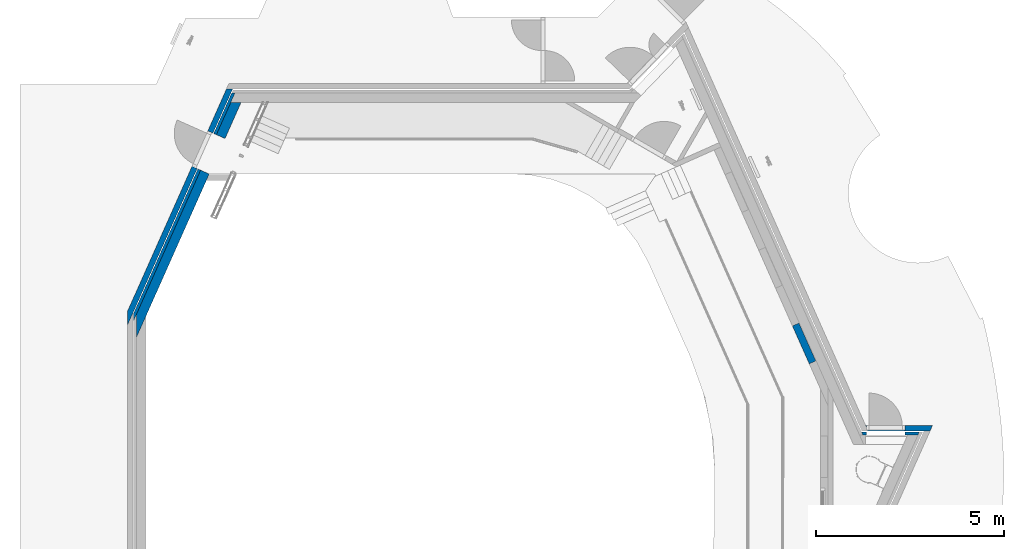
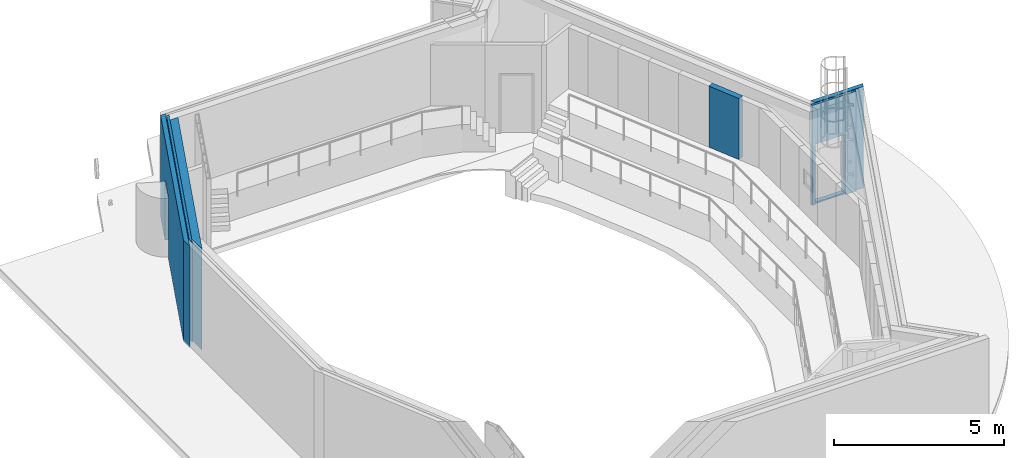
# One storey, part 8 of 16: 6 walls, 5 openings.
"""IFC2X3 building model written with IfcOpenShell, lengths in millimetres."""

import ifcopenshell
import ifcopenshell.guid

model = None  # the IFC model being written
_history = None  # IfcOwnerHistory: only IFC2X3 demands one
_inside = {}  # id of a spatial element -> (the spatial element, [elements in it])
_under = {}  # id of a project, library or spatial element -> (it, [spatial elements below it])
_declared = {}  # id of a project -> (the project, [libraries it declares])
_typed = {}  # id of a type object -> (the type object, [elements of that type])
_made_of = {}  # id of a material, layer set ... -> (it, [elements and type objects made of it])


def new_model(schema):
    """Start an empty IFC model of exactly this schema.

    Asked for "IFC4X3", IfcOpenShell would pick the latest addendum, in which some entities
    have other attributes; the version numbers below select the first issue.
    IFC2X3 requires an IfcOwnerHistory on every rooted entity: one is made here for all.
    """
    global model, _history
    if schema == "IFC4X3":
        model = ifcopenshell.file(schema_version=(4, 3, 0, 0))
    else:
        model = ifcopenshell.file(schema=schema)
    _inside.clear()
    _under.clear()
    _declared.clear()
    _typed.clear()
    _made_of.clear()
    _history = None
    if model.schema == "IFC2X3":
        org = make("IfcOrganization", Name="unknown")
        user = make(
            "IfcPersonAndOrganization",
            ThePerson=make("IfcPerson", FamilyName="unknown"),
            TheOrganization=org,
        )
        app = make(
            "IfcApplication",
            ApplicationDeveloper=org,
            Version="unknown",
            ApplicationFullName="unknown",
            ApplicationIdentifier="unknown",
        )
        _history = make(
            "IfcOwnerHistory",
            OwningUser=user,
            OwningApplication=app,
            ChangeAction="ADDED",
            CreationDate=0,
        )
    return model


def make(cls, **values):
    """One entity of the class cls with the attributes given. An attribute that is None is left unset."""
    return model.create_entity(
        cls, **{name: value for name, value in values.items() if value is not None}
    )


def entity(cls, *values):
    """Any entity or typed value of the class cls, its attributes in the order of the schema. None: left unset."""
    e = model.create_entity(cls)
    for i, value in enumerate(values):
        if value is not None:
            e[i] = value
    return e


def rooted(cls, **values):
    """An entity with a GlobalId (a new one), such as an element, a storey or a relation."""
    return make(cls, GlobalId=ifcopenshell.guid.new(), OwnerHistory=_history, **values)


def si_unit(unit_type, name, prefix=None):
    """IfcSIUnit, for example si_unit("LENGTHUNIT", "METRE", prefix="MILLI")."""
    return make("IfcSIUnit", UnitType=unit_type, Prefix=prefix, Name=name)


def converted_unit(unit_type, name, factor, base, dimensions=None, offset=None):
    """IfcConversionBasedUnit, such as the inch: factor (a typed value) times the base unit."""
    return make(
        "IfcConversionBasedUnit"
        if offset is None
        else "IfcConversionBasedUnitWithOffset",
        ConversionOffset=offset,
        Dimensions=None
        if dimensions is None
        else entity("IfcDimensionalExponents", *dimensions),
        UnitType=unit_type,
        Name=name,
        ConversionFactor=make(
            "IfcMeasureWithUnit", ValueComponent=factor, UnitComponent=base
        ),
    )


def derived_unit(unit_type, elements):
    """IfcDerivedUnit: a product of units, each with its exponent."""
    return make(
        "IfcDerivedUnit",
        Elements=[
            make("IfcDerivedUnitElement", Unit=unit, Exponent=power)
            for unit, power in elements
        ],
        UnitType=unit_type,
    )


def assignment(units):
    """IfcUnitAssignment: the units of a project."""
    return None if units is None else make("IfcUnitAssignment", Units=units)


def point(xyz):
    """IfcCartesianPoint."""
    return None if xyz is None else make("IfcCartesianPoint", Coordinates=xyz)


def direction(xyz):
    """IfcDirection."""
    return None if xyz is None else make("IfcDirection", DirectionRatios=xyz)


def frame(location, z_axis=None, x_axis=None):
    """IfcAxis2Placement3D, a coordinate frame: its origin and axes. An axis left out is left unset."""
    return make(
        "IfcAxis2Placement3D",
        Location=point(location),
        Axis=direction(z_axis),
        RefDirection=direction(x_axis),
    )


def frame_2d(location, x_axis=None):
    """IfcAxis2Placement2D, a coordinate frame in the plane: its origin and x axis."""
    return make(
        "IfcAxis2Placement2D", Location=point(location), RefDirection=direction(x_axis)
    )


def origin():
    """The frame at (0, 0, 0) with its axes left unset."""
    return frame((0.0, 0.0, 0.0))


def origin_2d_with_axis():
    """The frame at (0, 0) in the plane with the x axis (1, 0) written out."""
    return frame_2d((0.0, 0.0), x_axis=(1.0, 0.0))


def place(relative_to, where):
    """IfcLocalPlacement: puts the frame where relative to a parent placement (None: the world)."""
    return make(
        "IfcLocalPlacement", PlacementRelTo=relative_to, RelativePlacement=where
    )


def context(
    kind, dimensions, precision=None, world=None, true_north=None, identifier=None
):
    """IfcGeometricRepresentationContext, for example the 3D "Model" context."""
    return make(
        "IfcGeometricRepresentationContext",
        ContextIdentifier=identifier,
        ContextType=kind,
        CoordinateSpaceDimension=dimensions,
        Precision=precision,
        WorldCoordinateSystem=world,
        TrueNorth=true_north,
    )


def subcontext(parent, identifier, kind, view, scale=None):
    """IfcGeometricRepresentationSubContext, for example "Body" below "Model"."""
    return make(
        "IfcGeometricRepresentationSubContext",
        ContextIdentifier=identifier,
        ContextType=kind,
        ParentContext=parent,
        TargetScale=scale,
        TargetView=view,
    )


def project(units=None, contexts=None):
    """IfcProject with its units and contexts."""
    return rooted(
        "IfcProject",
        Name="project",
        RepresentationContexts=contexts,
        UnitsInContext=assignment(units),
    )


def spatial(cls, under=None, at=None, **own):
    """A site, building, storey or space (cls), placed at a placement, below another one or the project."""
    s = rooted(cls, ObjectPlacement=at, **own)
    if under is not None:
        _under.setdefault(under.id(), (under, []))[1].append(s)
    return s


def polyline(points):
    """IfcPolyline through the points."""
    return make("IfcPolyline", Points=[point(p) for p in points])


def profile(cls, at=None, kind="AREA", **sizes):
    """A parametric profile (cls). Its sizes go by their IFC names, for example OverallWidth=200.0."""
    return make(cls, ProfileType=kind, Position=at, **sizes)


def rectangle(**sizes):
    """IfcRectangleProfileDef."""
    return profile("IfcRectangleProfileDef", **sizes)


def outline(outer, holes=None, kind="AREA"):
    """IfcArbitraryClosedProfileDef: a profile drawn as a closed curve; with holes, ...WithVoids."""
    if holes is None:
        return make("IfcArbitraryClosedProfileDef", ProfileType=kind, OuterCurve=outer)
    return make(
        "IfcArbitraryProfileDefWithVoids",
        ProfileType=kind,
        OuterCurve=outer,
        InnerCurves=holes,
    )


def extrude(swept, where, along, depth):
    """IfcExtrudedAreaSolid: the profile swept, set in the frame where, extruded along a direction by depth."""
    return make(
        "IfcExtrudedAreaSolid",
        SweptArea=swept,
        Position=where,
        ExtrudedDirection=direction(along),
        Depth=depth,
    )


def clip(a, b, op="DIFFERENCE"):
    """IfcBooleanClippingResult: the solid a cut by the half space b."""
    return make(
        "IfcBooleanClippingResult", Operator=op, FirstOperand=a, SecondOperand=b
    )


def halfspace(plane, agree):
    """IfcHalfSpaceSolid: all space on one side of the plane z = 0 of the frame plane."""
    return make(
        "IfcHalfSpaceSolid",
        BaseSurface=make("IfcPlane", Position=plane),
        AgreementFlag=agree,
    )


def shape(context_of_items, identifier, shape_type, items):
    """IfcShapeRepresentation: the items that make up one representation, for example the "Body"."""
    return make(
        "IfcShapeRepresentation",
        ContextOfItems=context_of_items,
        RepresentationIdentifier=identifier,
        RepresentationType=shape_type,
        Items=items,
    )


def material(Name=None, Category=None):
    """IfcMaterial."""
    return make("IfcMaterial", Name=Name, Category=Category)


def layer(
    of_material, thickness, ventilated=None, Name=None, Category=None, Priority=None
):
    """IfcMaterialLayer: one layer of a wall or slab, of a material (None: an air gap)."""
    return make(
        "IfcMaterialLayer",
        Material=of_material,
        LayerThickness=thickness,
        IsVentilated=ventilated,
        Name=Name,
        Category=Category,
        Priority=Priority,
    )


def layer_set(layers, Name=None):
    """IfcMaterialLayerSet."""
    return make("IfcMaterialLayerSet", MaterialLayers=layers, LayerSetName=Name)


def layer_usage(for_layer_set, set_direction, sense, offset, extent=None):
    """IfcMaterialLayerSetUsage: how a layer set lies in its element."""
    return make(
        "IfcMaterialLayerSetUsage",
        ForLayerSet=for_layer_set,
        LayerSetDirection=set_direction,
        DirectionSense=sense,
        OffsetFromReferenceLine=offset,
        ReferenceExtent=extent,
    )


def made_of(thing, what):
    """Note that an element or type object is made of a material, layer set ...; save() writes the relation."""
    if what is not None:
        _made_of.setdefault(what.id(), (what, []))[1].append(thing)
    return thing


def type_object(cls, material=None, **own):
    """A type object (cls), such as IfcWallType, which elements share."""
    return made_of(rooted(cls, **own), material)


def element(
    cls,
    number,
    at=None,
    inside=None,
    cuts=None,
    type_object=None,
    material=None,
    context=None,
    identifier="Body",
    shape_type=None,
    held_by="IfcProductDefinitionShape",
    body=None,
    shapes=None,
    **own,
):
    """One element of the class cls, such as IfcWall. Its Tag is "e" and its number.

    at: its placement. inside: the storey or other place that contains it. cuts: it is an
    opening in that element (IfcRelVoidsElement). A single representation is given by context,
    identifier, shape_type and body (its items); several are given by shapes. held_by: the class
    of the entity that holds the representations. save() writes the other relations.
    """
    e = rooted(cls, Tag="e%d" % number, ObjectPlacement=at, **own)
    if body is not None:
        shapes = [shape(context, identifier, shape_type, body)]
    if shapes is not None:
        e.Representation = make(held_by, Representations=shapes)
    if inside is not None:
        _inside.setdefault(inside.id(), (inside, []))[1].append(e)
    if cuts is not None:
        rooted(
            "IfcRelVoidsElement", RelatingBuildingElement=cuts, RelatedOpeningElement=e
        )
    if type_object is not None:
        _typed.setdefault(type_object.id(), (type_object, []))[1].append(e)
    return made_of(e, material)


def aggregate(whole, parts):
    """IfcRelAggregates: a whole, such as a stair, and the parts it consists of."""
    return rooted("IfcRelAggregates", RelatingObject=whole, RelatedObjects=parts)


def save(model, path):
    """Write the relations noted so far, then the file.

    IfcRelAggregates (storeys below a building ...), IfcRelContainedInSpatialStructure (elements
    in a storey), IfcRelDefinesByType, IfcRelAssociatesMaterial and IfcRelDeclares: one each for
    every whole, place, type object, material and project.
    """
    for whole, parts in _under.values():
        aggregate(whole, parts)
    for where, things in _inside.values():
        rooted(
            "IfcRelContainedInSpatialStructure",
            RelatedElements=things,
            RelatingStructure=where,
        )
    for kind, things in _typed.values():
        rooted("IfcRelDefinesByType", RelatedObjects=things, RelatingType=kind)
    for what, things in _made_of.values():
        rooted("IfcRelAssociatesMaterial", RelatedObjects=things, RelatingMaterial=what)
    for by, libraries in _declared.values():
        rooted("IfcRelDeclares", RelatingContext=by, RelatedDefinitions=libraries)
    model.write(path)


model = new_model("IFC2X3")

# Units and contexts
model_context = context("Model", 3, precision=0.01, world=origin(), true_north=direction((6.123031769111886e-17, 1.0)))
body_context = subcontext(model_context, "Body", "Model", "MODEL_VIEW")
ifc_project = project(units=[si_unit("LENGTHUNIT", "METRE", prefix="MILLI"), si_unit("AREAUNIT", "SQUARE_METRE"), si_unit("VOLUMEUNIT", "CUBIC_METRE"), converted_unit("PLANEANGLEUNIT", "DEGREE", entity("IfcRatioMeasure", 0.017453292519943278), si_unit("PLANEANGLEUNIT", "RADIAN"), dimensions=[0, 0, 0, 0, 0, 0, 0]), si_unit("MASSUNIT", "GRAM", prefix="KILO"), derived_unit("MASSDENSITYUNIT", [(si_unit("MASSUNIT", "GRAM", prefix="KILO"), 1), (si_unit("LENGTHUNIT", "METRE"), -3)]), derived_unit("MOMENTOFINERTIAUNIT", [(si_unit("LENGTHUNIT", "METRE"), 4)]), si_unit("TIMEUNIT", "SECOND"), si_unit("FREQUENCYUNIT", "HERTZ"), si_unit("THERMODYNAMICTEMPERATUREUNIT", "DEGREE_CELSIUS"), derived_unit("THERMALTRANSMITTANCEUNIT", [(si_unit("MASSUNIT", "GRAM", prefix="KILO"), 1), (si_unit("THERMODYNAMICTEMPERATUREUNIT", "KELVIN"), -1), (si_unit("TIMEUNIT", "SECOND"), -3)]), derived_unit("VOLUMETRICFLOWRATEUNIT", [(si_unit("LENGTHUNIT", "METRE"), 3), (si_unit("TIMEUNIT", "SECOND"), -1)]), derived_unit("MASSFLOWRATEUNIT", [(si_unit("MASSUNIT", "GRAM", prefix="KILO"), 1), (si_unit("TIMEUNIT", "SECOND"), -1)]), derived_unit("ROTATIONALFREQUENCYUNIT", [(si_unit("TIMEUNIT", "SECOND"), -1)]), si_unit("ELECTRICCURRENTUNIT", "AMPERE"), si_unit("ELECTRICVOLTAGEUNIT", "VOLT"), si_unit("POWERUNIT", "WATT"), si_unit("FORCEUNIT", "NEWTON", prefix="KILO"), si_unit("ILLUMINANCEUNIT", "LUX"), si_unit("LUMINOUSFLUXUNIT", "LUMEN"), si_unit("LUMINOUSINTENSITYUNIT", "CANDELA"), derived_unit("USERDEFINED", [(si_unit("MASSUNIT", "GRAM", prefix="KILO"), -1), (si_unit("LENGTHUNIT", "METRE"), -2), (si_unit("TIMEUNIT", "SECOND"), 3), (si_unit("LUMINOUSFLUXUNIT", "LUMEN"), 1)]), derived_unit("SOUNDPOWERUNIT", [(si_unit("MASSUNIT", "GRAM", prefix="KILO"), 1), (si_unit("LENGTHUNIT", "METRE"), 2), (si_unit("TIMEUNIT", "SECOND"), -3)]), derived_unit("SOUNDPRESSUREUNIT", [(si_unit("MASSUNIT", "GRAM", prefix="KILO"), 1), (si_unit("LENGTHUNIT", "METRE"), -1), (si_unit("TIMEUNIT", "SECOND"), -2)]), derived_unit("LINEARVELOCITYUNIT", [(si_unit("LENGTHUNIT", "METRE"), 1), (si_unit("TIMEUNIT", "SECOND"), -1)]), si_unit("PRESSUREUNIT", "PASCAL"), derived_unit("USERDEFINED", [(si_unit("LENGTHUNIT", "METRE"), -2), (si_unit("MASSUNIT", "GRAM", prefix="KILO"), 1), (si_unit("TIMEUNIT", "SECOND"), -2)]), derived_unit("LINEARFORCEUNIT", [(si_unit("MASSUNIT", "GRAM", prefix="KILO"), 1), (si_unit("LENGTHUNIT", "METRE"), 1), (si_unit("TIMEUNIT", "SECOND"), -2), (si_unit("LENGTHUNIT", "METRE"), -1)]), derived_unit("PLANARFORCEUNIT", [(si_unit("MASSUNIT", "GRAM", prefix="KILO"), 1), (si_unit("LENGTHUNIT", "METRE"), 1), (si_unit("TIMEUNIT", "SECOND"), -2), (si_unit("LENGTHUNIT", "METRE"), -2)])], contexts=[model_context])

# Site, building, storey
site_placement = place(None, frame((-10000.0, -10000.0, 0.0)))
site = spatial("IfcSite", under=ifc_project, at=site_placement, Name="Default", CompositionType="ELEMENT")
building_placement = place(site_placement, origin())
building = spatial("IfcBuilding", under=site, at=building_placement, CompositionType="ELEMENT")
storey_placement = place(building_placement, frame((0.0, 0.0, 9000.0)))
storey = spatial("IfcBuildingStorey", under=building, at=storey_placement, Name="02 2e verdieping", CompositionType="ELEMENT", Elevation=9000.0)

# Wall, opening
ifc_material_1 = material(Name="NLRS_beton ihwg")
ifc_layer_1 = layer(ifc_material_1, 250.00000000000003)
ifc_layer_set_1 = layer_set([ifc_layer_1], Name="Basic Wall:NLRS_21_WA_beton 250mm_ags")
ifc_layer_usage_1 = layer_usage(ifc_layer_set_1, "AXIS2", "NEGATIVE", 125.00000000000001)
wall_type_1 = type_object("IfcWallType", Name="Basic Wall:NLRS_21_WA_beton 250mm_ags", PredefinedType="STANDARD", material=ifc_layer_set_1)
wall_1_placement = place(storey_placement, frame((28183.279332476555, 49202.842080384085, -50.0), z_axis=(0.0, 0.0, 1.0), x_axis=(-0.4067366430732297, -0.9135454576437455, 0.0)))
wall_1 = element("IfcWallStandardCase", 1, at=wall_1_placement, inside=storey, type_object=wall_type_1, material=ifc_layer_usage_1, Name="Basic Wall:NLRS_21_WA_beton 250mm_ags", ObjectType="Basic Wall:NLRS_21_WA_beton 250mm_ags", context=body_context, shape_type="Clipping", body=[
    clip(extrude(outline(polyline([(111.30717132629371, -125.0), (6254.8732549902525, -125.0), (6816.382448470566, 125.0), (6201.734114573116, 125.0), (0.0, 125.0), (111.30717132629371, -125.0)])), origin(), (0.0, 0.0, 1.0), 3649.9999999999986), halfspace(frame((0.0, 0.0, -50.0)), True)),
])
opening_1_placement = place(wall_1_placement, origin())
element("IfcOpeningElement", 2, at=opening_1_placement, cuts=wall_1, Name="Basic Wall:NLRS_21_WA_beton 250mm_ags", ObjectType="Opening", context=body_context, shape_type="SweptSolid", body=[
    extrude(rectangle(XDim=2220.0, YDim=1030.0000000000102, at=frame_2d((-1.1368683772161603e-12, 4.888534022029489e-12), x_axis=(1.0, 0.0))), frame((1568.0, -125.0, 1110.0), z_axis=(0.0, 1.0, 0.0), x_axis=(0.0, 0.0, -1.0)), (0.0, 0.0, 1.0), 249.99999999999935),
])

ifc_material_2 = material(Name="NLRS_kalkzandsteen")
ifc_layer_2 = layer(ifc_material_2, 150.0)
ifc_layer_set_2 = layer_set([ifc_layer_2], Name="Basic Wall:NLRS_22_WA_kalkzandsteen 150mm_ags")
ifc_layer_usage_2 = layer_usage(ifc_layer_set_2, "AXIS2", "NEGATIVE", 75.0)
wall_type_2 = type_object("IfcWallType", Name="Basic Wall:NLRS_22_WA_kalkzandsteen 150mm_ags", PredefinedType="STANDARD", material=ifc_layer_set_2)
wall_2_placement = place(storey_placement, frame((28001.66394773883, 49532.50524823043, -50.0), z_axis=(0.0, 0.0, 1.0), x_axis=(-0.40673664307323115, -0.9135454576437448, 0.0)))
wall_2 = element("IfcWallStandardCase", 3, at=wall_2_placement, inside=storey, type_object=wall_type_2, material=ifc_layer_usage_2, Name="Basic Wall:NLRS_22_WA_kalkzandsteen 150mm_ags", ObjectType="Basic Wall:NLRS_22_WA_kalkzandsteen 150mm_ags", context=body_context, shape_type="Clipping", body=[
    clip(extrude(outline(polyline([(66.78430279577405, -75.0), (6535.3050530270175, -75.0), (6872.210569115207, 75.0), (6503.421568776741, 75.0), (0.0, 75.0), (66.78430279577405, -75.0)])), origin(), (0.0, 0.0, 1.0), 3649.9999999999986), halfspace(frame((0.0, 0.0, -50.0)), True)),
])
opening_2_placement = place(wall_2_placement, origin())
element("IfcOpeningElement", 4, at=opening_2_placement, cuts=wall_2, Name="Basic Wall:NLRS_22_WA_kalkzandsteen 150mm_ags", ObjectType="Opening", context=body_context, shape_type="SweptSolid", body=[
    extrude(rectangle(XDim=2220.0, YDim=1030.0000000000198, at=frame_2d((-1.1368683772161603e-12, 0.0), x_axis=(1.0, 0.0))), frame((1795.292657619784, -75.0, 1110.0), z_axis=(0.0, 1.0, 0.0), x_axis=(0.0, 0.0, -1.0)), (0.0, 0.0, 1.0), 150.00000000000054),
])

ifc_layer_usage_3 = layer_usage(ifc_layer_set_2, "AXIS2", "NEGATIVE", 75.0)
wall_3_placement = place(storey_placement, frame((44882.691134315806, 40492.97902798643, -50.0)))
wall_3 = element("IfcWallStandardCase", 5, at=wall_3_placement, inside=storey, type_object=wall_type_2, material=ifc_layer_usage_3, Name="Basic Wall:NLRS_22_WA_kalkzandsteen 150mm_ags", ObjectType="Basic Wall:NLRS_22_WA_kalkzandsteen 150mm_ags", context=body_context, shape_type="Clipping", body=[
    clip(extrude(outline(polyline([(1709.0306594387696, -75.0), (1775.8149622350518, 75.0), (0.0, 75.0), (66.78430279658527, -75.0), (1544.835217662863, -75.0), (1709.0306594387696, -75.0)])), origin(), (0.0, 0.0, 1.0), 3649.9999999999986), halfspace(frame((0.0, 0.0, -50.0)), True)),
])
opening_3_placement = place(wall_3_placement, origin())
element("IfcOpeningElement", 6, at=opening_3_placement, cuts=wall_3, Name="Basic Wall:NLRS_22_WA_kalkzandsteen 150mm_ags", ObjectType="Opening", context=body_context, shape_type="SweptSolid", body=[
    extrude(rectangle(XDim=2170.0000000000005, YDim=1019.9999999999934, at=origin_2d_with_axis()), frame((530.8824803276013, -227.4000000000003, 1135.0), z_axis=(0.0, 1.0, 0.0), x_axis=(0.0, 0.0, 1.0)), (0.0, 0.0, 1.0), 454.8000000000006),
])

ifc_material_3 = material(Name="NLRS_isolatie")
ifc_layer_3 = layer(ifc_material_3, 80.0)
ifc_layer_set_3 = layer_set([ifc_layer_3], Name="Basic Wall:NLRS_21_WA_isolatie 80mm_ags")
ifc_layer_usage_4 = layer_usage(ifc_layer_set_3, "AXIS2", "NEGATIVE", 40.0)
wall_type_3 = type_object("IfcWallType", Name="Basic Wall:NLRS_21_WA_isolatie 80mm_ags", PredefinedType="STANDARD", material=ifc_layer_set_3)
wall_4_placement = place(storey_placement, frame((25408.45818138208, 43376.159634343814, 0.0), z_axis=(0.0, 0.0, 1.0), x_axis=(0.4067366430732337, 0.9135454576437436, 0.0)))
wall_4 = element("IfcWallStandardCase", 7, at=wall_4_placement, inside=storey, type_object=wall_type_3, material=ifc_layer_usage_4, Name="Basic Wall:NLRS_21_WA_isolatie 80mm_ags", ObjectType="Basic Wall:NLRS_21_WA_isolatie 80mm_ags", context=body_context, shape_type="Clipping", body=[
    clip(extrude(outline(polyline([(0.0, -40.0), (196.68746684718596, -40.0), (6613.912620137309, -40.0), (6578.294325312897, 40.0), (179.68294191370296, 40.0), (0.0, -40.0)])), origin(), (0.0, 0.0, 1.0), 3600.0000000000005), halfspace(frame((0.0, 0.0, -4800.0)), True)),
])
opening_4_placement = place(wall_4_placement, origin())
element("IfcOpeningElement", 8, at=opening_4_placement, cuts=wall_4, Name="Basic Wall:NLRS_21_WA_isolatie 80mm_ags", ObjectType="Opening", context=body_context, shape_type="SweptSolid", body=[
    extrude(rectangle(XDim=2220.0, YDim=1030.0000000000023, at=frame_2d((-1.1368683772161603e-12, 9.094947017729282e-13), x_axis=(1.0, 0.0))), frame((4883.560721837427, -40.0, 1060.0), z_axis=(0.0, 1.0, 0.0), x_axis=(0.0, 0.0, -1.0)), (0.0, 0.0, 1.0), 79.99999999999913),
])

ifc_layer_usage_5 = layer_usage(ifc_layer_set_3, "AXIS2", "NEGATIVE", 40.0)
wall_5_placement = place(storey_placement, frame((44772.29184347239, 40357.97902798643, 0.0)))
wall_5 = element("IfcWallStandardCase", 9, at=wall_5_placement, inside=storey, type_object=wall_type_3, material=ifc_layer_usage_5, Name="Basic Wall:NLRS_21_WA_isolatie 80mm_ags", ObjectType="Basic Wall:NLRS_21_WA_isolatie 80mm_ags", context=body_context, shape_type="Clipping", body=[
    clip(extrude(outline(polyline([(35.61829482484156, -40.0), (1501.2480121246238, -40.0), (1536.8663069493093, 40.0), (0.0, 40.0), (35.61829482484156, -40.0)])), origin(), (0.0, 0.0, 1.0), 3600.0000000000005), halfspace(frame((0.0, 0.0, -4800.0)), True)),
])
opening_5_placement = place(wall_5_placement, origin())
element("IfcOpeningElement", 10, at=opening_5_placement, cuts=wall_5, Name="Basic Wall:NLRS_21_WA_isolatie 80mm_ags", ObjectType="Opening", context=body_context, shape_type="SweptSolid", body=[
    extrude(rectangle(XDim=2220.0, YDim=1019.9999999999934, at=frame_2d((-1.1368683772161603e-12, 0.0), x_axis=(1.0, 0.0))), frame((641.2817711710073, -40.0, 1060.0), z_axis=(0.0, 1.0, 0.0), x_axis=(0.0, 0.0, -1.0)), (0.0, 0.0, 1.0), 79.99999999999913),
])

# Wall
ifc_material_4 = material(Name="NLRS_hout")
ifc_layer_4 = layer(ifc_material_4, 39.0)
ifc_material_5 = material(Name="NLRS_vilt")
ifc_layer_5 = layer(ifc_material_5, 1.0)
ifc_material_6 = material(Name="NLRS_aluminium C-profielen met isolatie")
ifc_layer_6 = layer(ifc_material_6, 150.0)
ifc_layer_set_4 = layer_set([ifc_layer_4, ifc_layer_5, ifc_layer_6], Name="Basic Wall:NLRS_22_WA_akoestische voorzetwand 190mm 39-1-150_ags")
ifc_layer_usage_6 = layer_usage(ifc_layer_set_4, "AXIS2", "POSITIVE", -94.99999999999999)
wall_type_4 = type_object("IfcWallType", Name="Basic Wall:NLRS_22_WA_akoestische voorzetwand 190mm 39-1-150_ags", PredefinedType="STANDARD", material=ifc_layer_set_4)
wall_6_placement = place(storey_placement, frame((43026.03998699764, 43250.63681313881, 1000.0), z_axis=(0.0, 0.0, 1.0), x_axis=(0.40673664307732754, -0.913545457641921, 0.0)))
element("IfcWallStandardCase", 11, at=wall_6_placement, inside=storey, type_object=wall_type_4, material=ifc_layer_usage_6, Name="Basic Wall:NLRS_22_WA_akoestische voorzetwand 190mm 39-1-150_ags", ObjectType="Basic Wall:NLRS_22_WA_akoestische voorzetwand 190mm 39-1-150_ags", context=body_context, shape_type="SweptSolid", body=[
    extrude(rectangle(XDim=1099.9999999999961, YDim=189.99999999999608, at=frame_2d((549.9999999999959, 7.87281351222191e-12), x_axis=(-1.0, 0.0))), origin(), (0.0, 0.0, 1.0), 2200.0000000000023),
])

save(model, "model.ifc")
